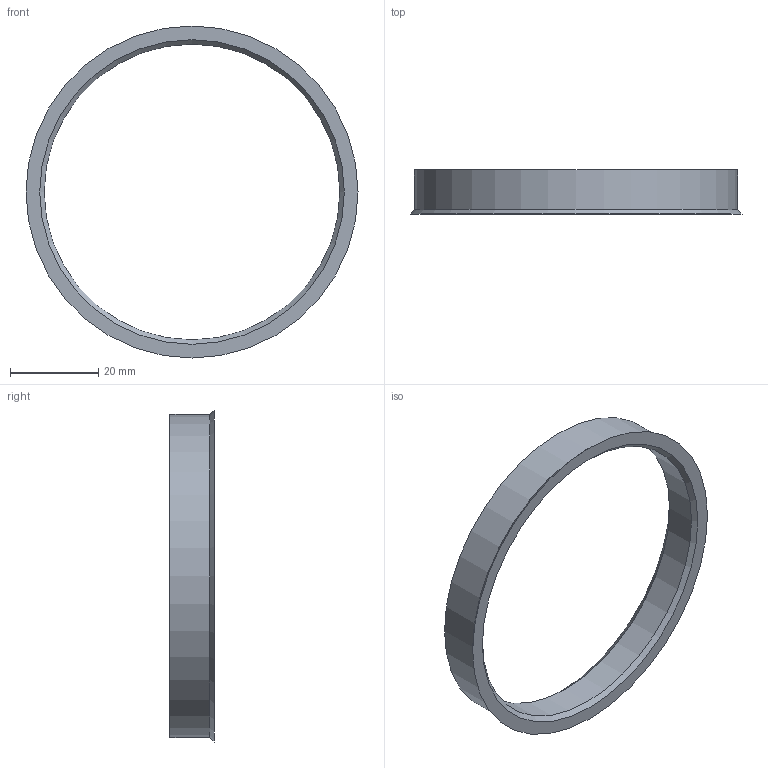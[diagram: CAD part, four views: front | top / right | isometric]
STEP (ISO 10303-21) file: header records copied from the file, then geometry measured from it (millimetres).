
FILE_DESCRIPTION(/* description */ (''),/* implementation_level */ '2;1');
FILE_NAME(/* name */ 'G:\CAD Library\Team Tasks\DIPP\11th Intake\Bradley Coles\Design Drafting\Random\Hub Rings\ipt\HubRing_73.1-66.9.stp',/* time_stamp */ '2025-07-22T13:46:44+08:00',/* author */ ('BCOLES'),/* organization */ (''),/* preprocessor_version */ 'ST-DEVELOPER v18.1',/* originating_system */ 'Autodesk Inventor 2022',/* authorisation */ '');
FILE_SCHEMA (('AUTOMOTIVE_DESIGN { 1 0 10303 214 3 1 1 }'));
Length unit declared in the file: millimetre
Products named in the file (1): HubRing_73.1-66.9
Bounding box: 75.1 x 10 x 75.1 mm (x, y, z)
Volume: 6398.3 mm3; surface area: 5731.2 mm2
Topology: 1 solids, 1 shells, 7 faces, 13 edges, 8 vertices
Faces by surface type: cone 3, cylinder 2, plane 2
Full cylindrical faces by diameter (mm): 66.9 x1, 73.1 x1
Entity records: 226 total; most frequent: DIRECTION 37, CARTESIAN_POINT 29, ORIENTED_EDGE 26, AXIS2_PLACEMENT_3D 16, EDGE_CURVE 13, EDGE_LOOP 9, CIRCLE 8, VERTEX_POINT 8
